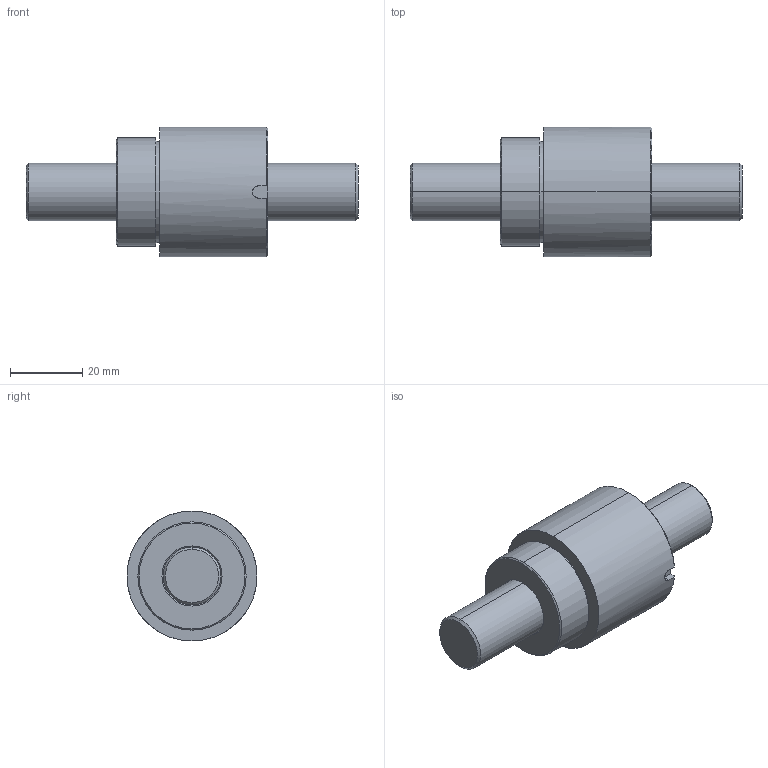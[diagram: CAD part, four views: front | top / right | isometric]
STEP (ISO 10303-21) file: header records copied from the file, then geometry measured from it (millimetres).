
FILE_DESCRIPTION(('no description'),'unknown implementation level');
FILE_NAME('R16_05T3_SE_92_92_0_023_1.stp',' ',('HIWIN GmbH'),('CADClick - KiM GmbH - www.kimweb.de'),'unknown preprocess','ACIS','unknown authorization');
FILE_SCHEMA(('automotive_design'));
Length unit declared in the file: millimetre
Products named in the file (2): R16-05T3-SE 92 92 0.023; R16-05T3-SE 92 92 0.023_1
Bounding box: 92 x 36 x 36 mm (x, y, z)
Volume: 48891.9 mm3; surface area: 13398.7 mm2
Topology: 2 solids, 2 shells, 40 faces, 90 edges, 56 vertices
Faces by surface type: cone 14, cylinder 14, plane 12
Entity records: 2275 total; most frequent: CARTESIAN_POINT 264, DIRECTION 206, STYLED_ITEM 188, PRESENTATION_STYLE_ASSIGNMENT 188, COLOUR_RGB 188, ORIENTED_EDGE 180, EDGE_CURVE 90, CURVE_STYLE 90
